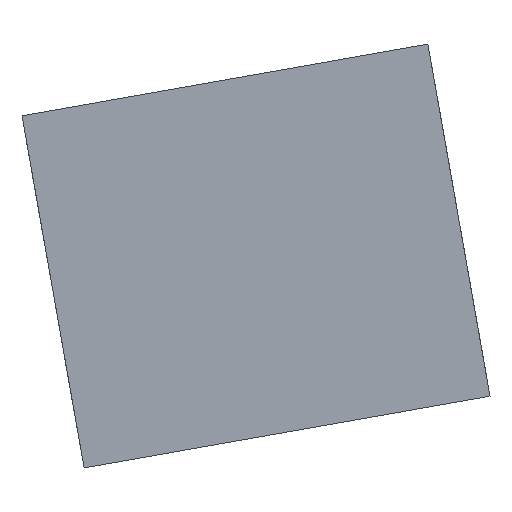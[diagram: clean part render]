
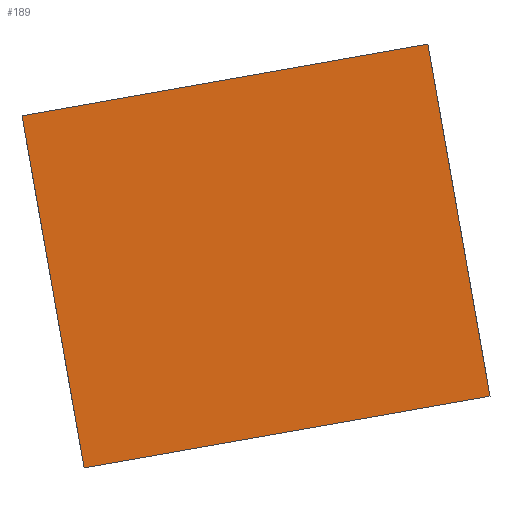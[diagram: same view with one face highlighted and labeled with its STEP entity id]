
A CAD part, left-side view. The second image highlights one B-rep face of the part: STEP entity #189.
In plain terms, the highlighted planar face has unit normal (-1, 0, 0).
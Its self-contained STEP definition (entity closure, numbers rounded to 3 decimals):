
#27=CARTESIAN_POINT('',(-163.5,-294.308,341.589));
#28=VERTEX_POINT('',#27);
#45=CARTESIAN_POINT('',(-163.5,-376.047,356.002));
#46=VERTEX_POINT('',#45);
#53=CARTESIAN_POINT('',(-163.5,-294.308,341.589));
#54=DIRECTION('',(0.0,-0.985,0.174));
#55=VECTOR('',#54,1.);
#56=LINE('',#53,#55);
#57=EDGE_CURVE('',#28,#46,#56,.T.);
#142=CARTESIAN_POINT('',(-163.5,-281.805,412.495));
#143=VERTEX_POINT('',#142);
#150=CARTESIAN_POINT('',(-163.5,-363.544,426.908));
#151=VERTEX_POINT('',#150);
#152=CARTESIAN_POINT('',(-163.5,-281.805,412.495));
#153=DIRECTION('',(0.0,-0.985,0.174));
#154=VECTOR('',#153,1.);
#155=LINE('',#152,#154);
#156=EDGE_CURVE('',#143,#151,#155,.T.);
#168=CARTESIAN_POINT('',(-163.5,-281.805,412.495));
#169=DIRECTION('',(-1.0,0.0,0.0));
#170=DIRECTION('',(0.0,-0.174,-0.985));
#171=AXIS2_PLACEMENT_3D('',#168,#169,#170);
#172=PLANE('',#171);
#173=CARTESIAN_POINT('',(-163.5,-281.805,412.495));
#174=DIRECTION('',(0.,-0.174,-0.985));
#175=VECTOR('',#174,1.);
#176=LINE('',#173,#175);
#177=EDGE_CURVE('',#143,#28,#176,.T.);
#178=ORIENTED_EDGE('',*,*,#177,.T.);
#179=ORIENTED_EDGE('',*,*,#57,.T.);
#180=CARTESIAN_POINT('',(-163.5,-363.544,426.908));
#181=DIRECTION('',(0.,-0.174,-0.985));
#182=VECTOR('',#181,1.);
#183=LINE('',#180,#182);
#184=EDGE_CURVE('',#151,#46,#183,.T.);
#185=ORIENTED_EDGE('',*,*,#184,.F.);
#186=ORIENTED_EDGE('',*,*,#156,.F.);
#187=EDGE_LOOP('',(#178,#179,#185,#186));
#188=FACE_BOUND('',#187,.T.);
#189=ADVANCED_FACE('',(#188),#172,.T.);
